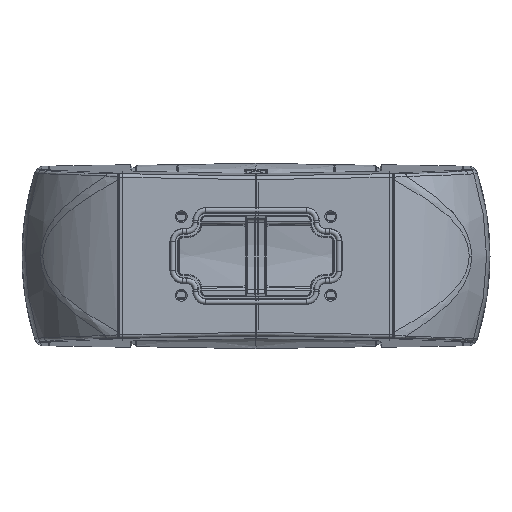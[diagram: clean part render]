
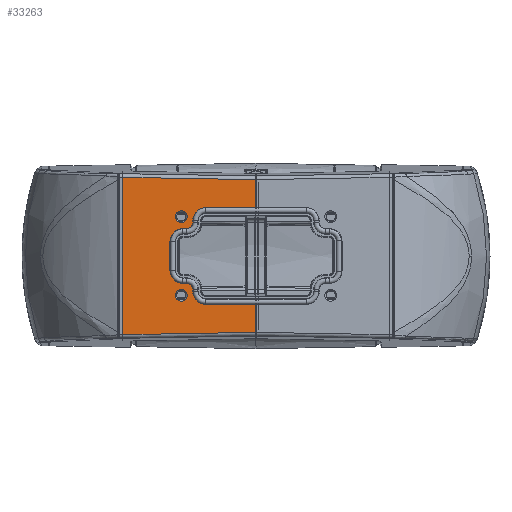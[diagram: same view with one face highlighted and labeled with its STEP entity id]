
A CAD part, front view. The second image highlights one B-rep face of the part: STEP entity #33263.
In plain terms, the highlighted planar face has unit normal (0, -1, 0).
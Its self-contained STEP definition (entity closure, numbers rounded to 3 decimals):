
#22141=DIRECTION('',(0.,0.,-1.));
#22142=VECTOR('',#22141,14.299);
#22143=CARTESIAN_POINT('',(-0.35,-157.,-26.697));
#22144=LINE('',#22143,#22142);
#22148=DIRECTION('',(0.,0.,-1.));
#22149=VECTOR('',#22148,0.833);
#22150=CARTESIAN_POINT('',(-0.35,-157.,-40.995));
#22151=LINE('',#22150,#22149);
#22155=DIRECTION('',(1.,0.,0.017));
#22156=VECTOR('',#22155,72.561);
#22157=CARTESIAN_POINT('',(-72.9,-157.,-43.097));
#22158=LINE('',#22157,#22156);
#22162=DIRECTION('',(0.,0.,-1.));
#22163=VECTOR('',#22162,86.194);
#22164=CARTESIAN_POINT('',(-72.9,-157.,43.097));
#22165=LINE('',#22164,#22163);
#22169=DIRECTION('',(-1.,0.,0.017));
#22170=VECTOR('',#22169,72.561);
#22171=CARTESIAN_POINT('',(-0.35,-157.,41.829));
#22172=LINE('',#22171,#22170);
#22176=DIRECTION('',(0.,0.,-1.));
#22177=VECTOR('',#22176,0.833);
#22178=CARTESIAN_POINT('',(-0.35,-157.,41.829));
#22179=LINE('',#22178,#22177);
#22183=DIRECTION('',(0.,0.,-1.));
#22184=VECTOR('',#22183,14.299);
#22185=CARTESIAN_POINT('',(-0.35,-157.,40.995));
#22186=LINE('',#22185,#22184);
#22190=DIRECTION('',(-1.,0.,0.));
#22191=VECTOR('',#22190,26.65);
#22192=CARTESIAN_POINT('',(-0.35,-157.,26.697));
#22193=LINE('',#22192,#22191);
#22197=CARTESIAN_POINT('',(-27.,-157.,19.));
#22198=DIRECTION('',(0.,-1.,0.));
#22199=DIRECTION('',(0.,0.,1.));
#22200=AXIS2_PLACEMENT_3D('',#22197,#22198,#22199);
#22205=DIRECTION('',(0.,0.,-1.));
#22206=VECTOR('',#22205,1.);
#22207=CARTESIAN_POINT('',(-34.697,-157.,19.));
#22208=LINE('',#22207,#22206);
#22212=CARTESIAN_POINT('',(-37.5,-157.,18.));
#22213=DIRECTION('',(0.,1.,0.));
#22214=DIRECTION('',(1.,0.,0.));
#22215=AXIS2_PLACEMENT_3D('',#22212,#22213,#22214);
#22220=DIRECTION('',(-1.,0.,0.));
#22221=VECTOR('',#22220,2.);
#22222=CARTESIAN_POINT('',(-37.5,-157.,15.197));
#22223=LINE('',#22222,#22221);
#22227=CARTESIAN_POINT('',(-39.5,-157.,7.5));
#22228=DIRECTION('',(0.,-1.,0.));
#22229=DIRECTION('',(0.,0.,1.));
#22230=AXIS2_PLACEMENT_3D('',#22227,#22228,#22229);
#22235=DIRECTION('',(0.,0.,-1.));
#22236=VECTOR('',#22235,15.);
#22237=CARTESIAN_POINT('',(-47.197,-157.,7.5));
#22238=LINE('',#22237,#22236);
#22242=CARTESIAN_POINT('',(-39.5,-157.,-7.5));
#22243=DIRECTION('',(0.,-1.,0.));
#22244=DIRECTION('',(-1.,0.,0.));
#22245=AXIS2_PLACEMENT_3D('',#22242,#22243,#22244);
#22250=DIRECTION('',(1.,0.,0.));
#22251=VECTOR('',#22250,2.);
#22252=CARTESIAN_POINT('',(-39.5,-157.,-15.197));
#22253=LINE('',#22252,#22251);
#22257=CARTESIAN_POINT('',(-37.5,-157.,-18.));
#22258=DIRECTION('',(0.,1.,0.));
#22259=DIRECTION('',(0.,0.,1.));
#22260=AXIS2_PLACEMENT_3D('',#22257,#22258,#22259);
#22265=DIRECTION('',(0.,0.,-1.));
#22266=VECTOR('',#22265,1.);
#22267=CARTESIAN_POINT('',(-34.697,-157.,-18.));
#22268=LINE('',#22267,#22266);
#22272=CARTESIAN_POINT('',(-27.,-157.,-19.));
#22273=DIRECTION('',(0.,-1.,0.));
#22274=DIRECTION('',(-1.,0.,0.));
#22275=AXIS2_PLACEMENT_3D('',#22272,#22273,#22274);
#22280=DIRECTION('',(1.,0.,0.));
#22281=VECTOR('',#22280,26.65);
#22282=CARTESIAN_POINT('',(-27.,-157.,-26.697));
#22283=LINE('',#22282,#22281);
#22287=CARTESIAN_POINT('',(-41.,-157.,21.5));
#22288=DIRECTION('',(0.,1.,0.));
#22289=DIRECTION('',(-1.,0.,0.));
#22290=AXIS2_PLACEMENT_3D('',#22287,#22288,#22289);
#22295=CARTESIAN_POINT('',(-41.,-157.,21.5));
#22296=DIRECTION('',(0.,1.,0.));
#22297=DIRECTION('',(1.,0.,0.));
#22298=AXIS2_PLACEMENT_3D('',#22295,#22296,#22297);
#22303=CARTESIAN_POINT('',(-41.,-157.,-21.5));
#22304=DIRECTION('',(0.,1.,0.));
#22305=DIRECTION('',(1.,0.,0.));
#22306=AXIS2_PLACEMENT_3D('',#22303,#22304,#22305);
#22311=CARTESIAN_POINT('',(-41.,-157.,-21.5));
#22312=DIRECTION('',(0.,1.,0.));
#22313=DIRECTION('',(-1.,0.,0.));
#22314=AXIS2_PLACEMENT_3D('',#22311,#22312,#22313);
#24749=CARTESIAN_POINT('',(-0.35,-157.,-41.829));
#32093=CARTESIAN_POINT('',(-44.25,-157.,21.5));
#32094=CARTESIAN_POINT('',(-37.75,-157.,21.5));
#32095=VERTEX_POINT('',#32093);
#32096=VERTEX_POINT('',#32094);
#32101=CARTESIAN_POINT('',(-37.75,-157.,-21.5));
#32102=CARTESIAN_POINT('',(-44.25,-157.,-21.5));
#32103=VERTEX_POINT('',#32101);
#32104=VERTEX_POINT('',#32102);
#32177=CARTESIAN_POINT('',(-0.35,-157.,41.829));
#32178=CARTESIAN_POINT('',(-0.35,-157.,40.995));
#32179=VERTEX_POINT('',#32177);
#32180=VERTEX_POINT('',#32178);
#32190=VERTEX_POINT('',#24749);
#32191=CARTESIAN_POINT('',(-0.35,-157.,-40.995));
#32192=VERTEX_POINT('',#32191);
#32195=CARTESIAN_POINT('',(-72.9,-157.,-43.097));
#32196=VERTEX_POINT('',#32195);
#32197=CARTESIAN_POINT('',(-72.9,-157.,43.097));
#32198=VERTEX_POINT('',#32197);
#32403=CARTESIAN_POINT('',(-0.35,-157.,-26.697));
#32404=VERTEX_POINT('',#32403);
#32405=CARTESIAN_POINT('',(-0.35,-157.,26.697));
#32406=VERTEX_POINT('',#32405);
#32511=CARTESIAN_POINT('',(-27.,-157.,-26.697));
#32512=VERTEX_POINT('',#32511);
#32517=CARTESIAN_POINT('',(-34.697,-157.,-19.));
#32518=VERTEX_POINT('',#32517);
#32519=CARTESIAN_POINT('',(-34.697,-157.,-18.));
#32520=VERTEX_POINT('',#32519);
#32521=CARTESIAN_POINT('',(-37.5,-157.,-15.197));
#32522=VERTEX_POINT('',#32521);
#32523=CARTESIAN_POINT('',(-39.5,-157.,-15.197));
#32524=VERTEX_POINT('',#32523);
#32529=CARTESIAN_POINT('',(-47.197,-157.,-7.5));
#32530=VERTEX_POINT('',#32529);
#32531=CARTESIAN_POINT('',(-47.197,-157.,7.5));
#32532=VERTEX_POINT('',#32531);
#32537=CARTESIAN_POINT('',(-39.5,-157.,15.197));
#32538=VERTEX_POINT('',#32537);
#32539=CARTESIAN_POINT('',(-37.5,-157.,15.197));
#32540=VERTEX_POINT('',#32539);
#32541=CARTESIAN_POINT('',(-34.697,-157.,18.));
#32542=VERTEX_POINT('',#32541);
#32543=CARTESIAN_POINT('',(-34.697,-157.,19.));
#32544=VERTEX_POINT('',#32543);
#32545=CARTESIAN_POINT('',(-27.,-157.,26.697));
#32546=VERTEX_POINT('',#32545);
#33204=CARTESIAN_POINT('',(-75.2,-157.,50.));
#33205=DIRECTION('',(0.,-1.,0.));
#33206=DIRECTION('',(1.,0.,0.));
#33207=AXIS2_PLACEMENT_3D('',#33204,#33205,#33206);
#33208=PLANE('',#33207);
#33210=ORIENTED_EDGE('',*,*,#33209,.T.);
#33212=ORIENTED_EDGE('',*,*,#33211,.T.);
#33214=ORIENTED_EDGE('',*,*,#33213,.F.);
#33216=ORIENTED_EDGE('',*,*,#33215,.F.);
#33218=ORIENTED_EDGE('',*,*,#33217,.F.);
#33220=ORIENTED_EDGE('',*,*,#33219,.T.);
#33222=ORIENTED_EDGE('',*,*,#33221,.T.);
#33224=ORIENTED_EDGE('',*,*,#33223,.T.);
#33226=ORIENTED_EDGE('',*,*,#33225,.T.);
#33228=ORIENTED_EDGE('',*,*,#33227,.T.);
#33230=ORIENTED_EDGE('',*,*,#33229,.T.);
#33232=ORIENTED_EDGE('',*,*,#33231,.T.);
#33234=ORIENTED_EDGE('',*,*,#33233,.T.);
#33236=ORIENTED_EDGE('',*,*,#33235,.T.);
#33238=ORIENTED_EDGE('',*,*,#33237,.T.);
#33240=ORIENTED_EDGE('',*,*,#33239,.T.);
#33242=ORIENTED_EDGE('',*,*,#33241,.T.);
#33244=ORIENTED_EDGE('',*,*,#33243,.T.);
#33246=ORIENTED_EDGE('',*,*,#33245,.T.);
#33248=ORIENTED_EDGE('',*,*,#33247,.T.);
#33249=EDGE_LOOP('',(#33210,#33212,#33214,#33216,#33218,#33220,#33222,#33224,
#33226,#33228,#33230,#33232,#33234,#33236,#33238,#33240,#33242,#33244,#33246,
#33248));
#33250=FACE_OUTER_BOUND('',#33249,.F.);
#33252=ORIENTED_EDGE('',*,*,#33251,.F.);
#33254=ORIENTED_EDGE('',*,*,#33253,.F.);
#33255=EDGE_LOOP('',(#33252,#33254));
#33256=FACE_BOUND('',#33255,.F.);
#33258=ORIENTED_EDGE('',*,*,#33257,.F.);
#33260=ORIENTED_EDGE('',*,*,#33259,.F.);
#33261=EDGE_LOOP('',(#33258,#33260));
#33262=FACE_BOUND('',#33261,.F.);
#22201=CIRCLE('',#22200,7.697);
#22216=CIRCLE('',#22215,2.803);
#22231=CIRCLE('',#22230,7.697);
#22246=CIRCLE('',#22245,7.697);
#22261=CIRCLE('',#22260,2.803);
#22276=CIRCLE('',#22275,7.697);
#22291=CIRCLE('',#22290,3.25);
#22299=CIRCLE('',#22298,3.25);
#22307=CIRCLE('',#22306,3.25);
#22315=CIRCLE('',#22314,3.25);
#33209=EDGE_CURVE('',#32404,#32192,#22144,.T.);
#33211=EDGE_CURVE('',#32192,#32190,#22151,.T.);
#33213=EDGE_CURVE('',#32196,#32190,#22158,.T.);
#33215=EDGE_CURVE('',#32198,#32196,#22165,.T.);
#33217=EDGE_CURVE('',#32179,#32198,#22172,.T.);
#33219=EDGE_CURVE('',#32179,#32180,#22179,.T.);
#33221=EDGE_CURVE('',#32180,#32406,#22186,.T.);
#33223=EDGE_CURVE('',#32406,#32546,#22193,.T.);
#33225=EDGE_CURVE('',#32546,#32544,#22201,.T.);
#33227=EDGE_CURVE('',#32544,#32542,#22208,.T.);
#33229=EDGE_CURVE('',#32542,#32540,#22216,.T.);
#33231=EDGE_CURVE('',#32540,#32538,#22223,.T.);
#33233=EDGE_CURVE('',#32538,#32532,#22231,.T.);
#33235=EDGE_CURVE('',#32532,#32530,#22238,.T.);
#33237=EDGE_CURVE('',#32530,#32524,#22246,.T.);
#33239=EDGE_CURVE('',#32524,#32522,#22253,.T.);
#33241=EDGE_CURVE('',#32522,#32520,#22261,.T.);
#33243=EDGE_CURVE('',#32520,#32518,#22268,.T.);
#33245=EDGE_CURVE('',#32518,#32512,#22276,.T.);
#33247=EDGE_CURVE('',#32512,#32404,#22283,.T.);
#33251=EDGE_CURVE('',#32095,#32096,#22291,.T.);
#33253=EDGE_CURVE('',#32096,#32095,#22299,.T.);
#33257=EDGE_CURVE('',#32103,#32104,#22307,.T.);
#33259=EDGE_CURVE('',#32104,#32103,#22315,.T.);
#33263=ADVANCED_FACE('',(#33250,#33256,#33262),#33208,.T.);
